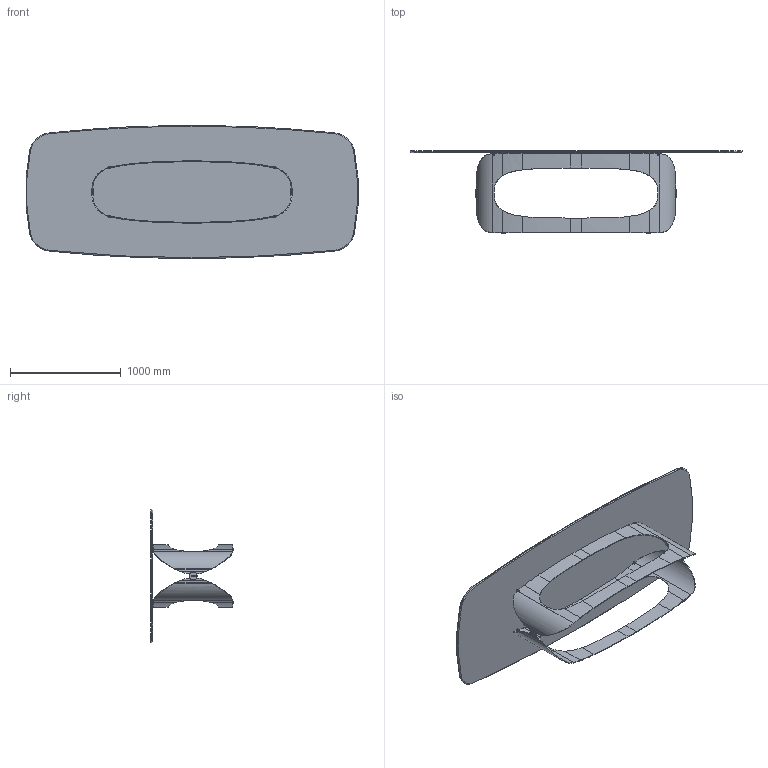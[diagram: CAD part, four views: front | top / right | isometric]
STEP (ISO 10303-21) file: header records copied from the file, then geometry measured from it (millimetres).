
FILE_DESCRIPTION (( 'STEP AP203' ), '1' );
FILE_NAME ('PO44C_Polifemo_300x120_.STEP', '2024-08-06T14:19:17', ( '' ), ( '' ), 'SwSTEP 2.0', 'SolidWorks 2022', '' );
FILE_SCHEMA (( 'CONFIG_CONTROL_DESIGN' ));
Length unit declared in the file: millimetre
Products named in the file (11): PVC Ø19x3; PST0GR022-01-PIASTRA D22x22H mm+FILETTO M8 AVP-AVZ GREZZO; POL000001_01-00-MEZZA BASE POLIFEMO L300 GREZZO; K4XCMXX-00-Piani Sagomati in ceramica_3000 x 1200; POL000000_03B-00-POLIFEMO FREGIO; POL000000_03A-01-POLIFEMO FREGIO; PVC profilo Polifemo 9x8; POL000000_02-02-CILINDRO DI FISSAGGIO Ø12X15 M8; PO44C_Polifemo_300x120_; POL000001-00-POLIFEMO BASE L300 GREZZO; POL000000_03-01-POLIFEMO FREGIO COMPLETO
Assembly tree (24 placements, depth 3):
  PO44C_Polifemo_300x120_
    POL000001-00-POLIFEMO BASE L300 GREZZO
      POL000001_01-00-MEZZA BASE POLIFEMO L300 GREZZO  x2
      POL000000_02-02-CILINDRO DI FISSAGGIO Ø12X15 M8  x4
    POL000000_03-01-POLIFEMO FREGIO COMPLETO  x2
      POL000000_03A-01-POLIFEMO FREGIO
      POL000000_03B-00-POLIFEMO FREGIO
    PST0GR022-01-PIASTRA D22x22H mm+FILETTO M8 AVP-AVZ GREZZO  x4
    PVC Ø19x3  x4
    PVC profilo Polifemo 9x8  x3
    K4XCMXX-00-Piani Sagomati in ceramica_3000 x 1200
Bounding box: 2991.72 x 740.97 x 1200 mm (x, y, z)
Volume: 62655149.6 mm3; surface area: 16717286.9 mm2
Topology: 25 solids, 25 shells, 597 faces, 1489 edges, 948 vertices
Faces by surface type: cylinder 263, plane 153, bspline 152, cone 29
Entity records: 17400 total; most frequent: CARTESIAN_POINT 10439, ORIENTED_EDGE 1262, DIRECTION 938, EDGE_CURVE 631, VERTEX_POINT 400, AXIS2_PLACEMENT_3D 361, EDGE_LOOP 257, FACE_OUTER_BOUND 251
